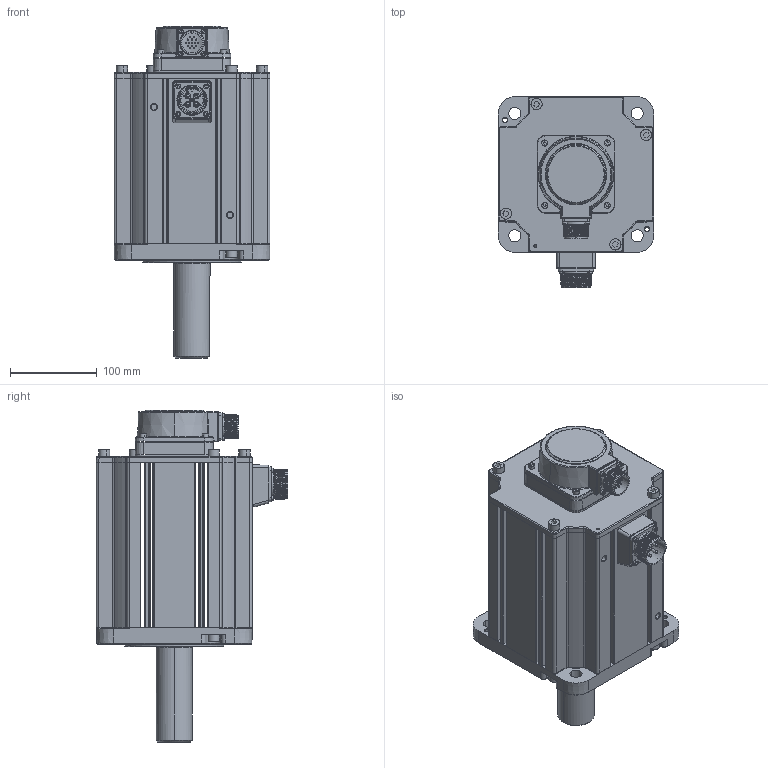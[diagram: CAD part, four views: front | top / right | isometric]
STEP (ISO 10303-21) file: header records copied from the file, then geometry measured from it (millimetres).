
FILE_DESCRIPTION (( 'STEP AP203' ), '1' );
FILE_NAME ('MS6G-180TH15B2-47P5.STEP', '2024-04-28T00:38:02', ( '' ), ( '' ), 'SwSTEP 2.0', 'SolidWorks 2022', '' );
FILE_SCHEMA (( 'CONFIG_CONTROL_DESIGN' ));
Products named in the file (1): MS6G-180TH15B2-47P5
Bounding box: 180 x 220.9 x 383.5 mm (x, y, z)
Surface area: 306127.4 mm2 (no closed solid volume)
Topology: 0 solids, 74 shells, 1215 faces, 3692 edges, 2500 vertices
Faces by surface type: plane 414, cylinder 366, bspline 154, torus 135, cone 103, sphere 43
Entity records: 59610 total; most frequent: CARTESIAN_POINT 28253, DIRECTION 6404, ORIENTED_EDGE 6058, EDGE_CURVE 3646, VERTEX_POINT 2500, AXIS2_PLACEMENT_3D 2374, VECTOR 1656, LINE 1656
